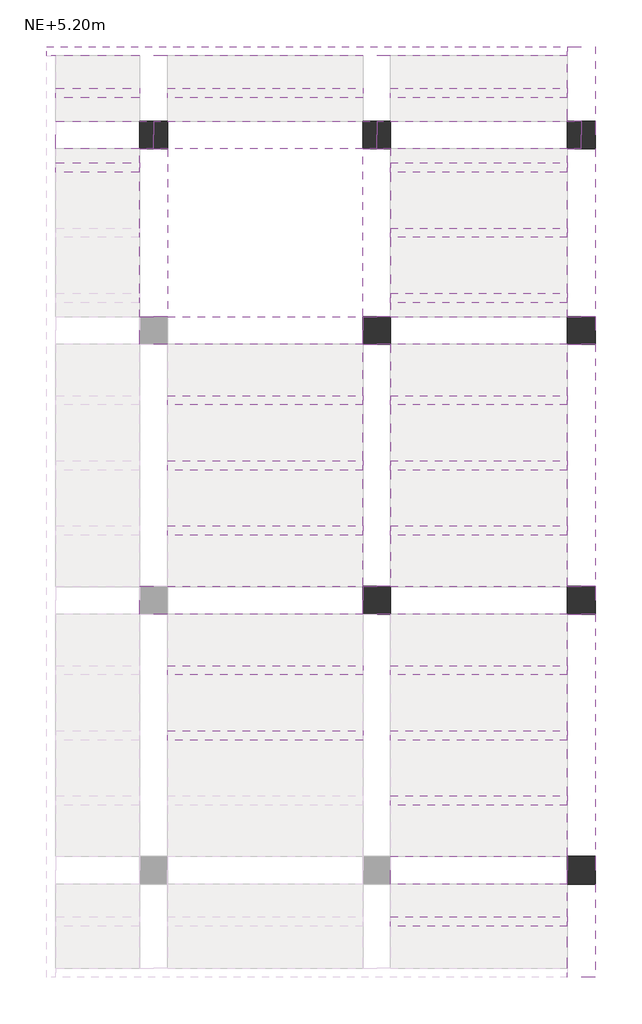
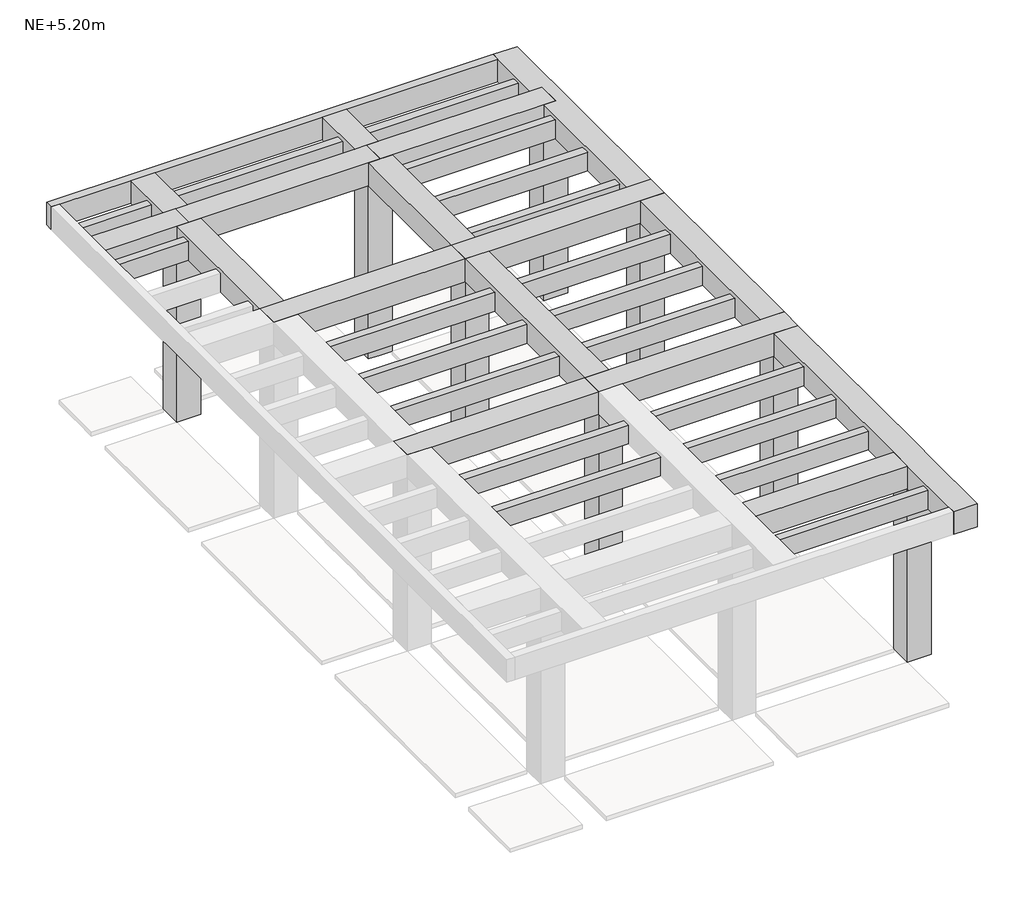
# One storey, part 2 of 2: 34 beams, 8 columns.
"""IFC4 building model written with IfcOpenShell, lengths in millimetres."""

from ifc_helpers import new_model, si_unit, frame, origin, place, context, project, spatial, polyline, outline, extrude, faceted_brep, element, save

model = new_model("IFC4")

# Units and contexts
model_context = context("Model", 3, world=origin())
ifc_project = project(units=[si_unit("LENGTHUNIT", "METRE", prefix="MILLI")], contexts=[model_context])

# Site, building, storey
site = spatial("IfcSite", under=ifc_project)
building = spatial("IfcBuilding", under=site)
storey = spatial("IfcBuildingStorey", under=building, Name="NE+5.20m", Elevation=5200.0)

# Beams
placement = place(None, origin())
element("IfcBeam", 1, ObjectType="Hormigón-Viga rectangular : VA (0.30x0.30m)", at=placement, inside=storey, context=model_context, shape_type="Brep", body=[
    faceted_brep([(1502.3188918, 1062.8132138, 7800.0), (1502.3188918, 762.8132138, 7800.0), (1652.3188918, 762.8132138, 7800.0), (3552.3188918, 762.8132138, 7800.0), (3702.3188918, 762.8132138, 7800.0), (3702.3188918, 1062.8132138, 7800.0), (3552.3188918, 1062.8132138, 7800.0), (1652.3188918, 1062.8132138, 7800.0), (3702.3188918, 1062.8132138, 7500.0), (3552.3188918, 1062.8132138, 7500.0), (1652.3188918, 1062.8132138, 7500.0), (1502.3188918, 1062.8132138, 7500.0), (3702.3188918, 762.8132138, 7500.0), (3552.3188918, 762.8132138, 7500.0), (1652.3188918, 762.8132138, 7500.0), (1502.3188918, 762.8132138, 7500.0)], [[[0, 1, 2, 3, 4, 5, 6, 7]], [[8, 9, 10, 11, 0, 7, 6, 5]], [[11, 10, 9, 8, 12, 13, 14, 15]], [[15, 14, 13, 12, 4, 3, 2, 1]], [[1, 0, 11, 15]], [[4, 12, 8, 5]]]),
])
element("IfcBeam", 2, ObjectType="Hormigón-Viga rectangular : VA (0.30x0.30m)", at=placement, inside=storey, context=model_context, shape_type="Brep", body=[
    faceted_brep([(-897.6811082, 762.8132138, 7800.0), (-747.6811082, 762.8132138, 7800.0), (1352.3188918, 762.8132138, 7800.0), (1502.3188918, 762.8132138, 7800.0), (1502.3188918, 1062.8132138, 7800.0), (1352.3188918, 1062.8132138, 7800.0), (-747.6811082, 1062.8132138, 7800.0), (-897.6811082, 1062.8132138, 7800.0), (1502.3188918, 1062.8132138, 7500.0), (1352.3188918, 1062.8132138, 7500.0), (-747.6811082, 1062.8132138, 7500.0), (-897.6811082, 1062.8132138, 7500.0), (1502.3188918, 762.8132138, 7500.0), (1352.3188918, 762.8132138, 7500.0), (-747.6811082, 762.8132138, 7500.0), (-897.6811082, 762.8132138, 7500.0)], [[[0, 1, 2, 3, 4, 5, 6, 7]], [[8, 9, 10, 11, 7, 6, 5, 4]], [[11, 10, 9, 8, 12, 13, 14, 15]], [[3, 2, 1, 0, 15, 14, 13, 12]], [[0, 7, 11, 15]], [[3, 12, 8, 4]]]),
])
element("IfcBeam", 3, ObjectType="Hormigón-Viga rectangular : VA (0.30x0.30m)", at=placement, inside=storey, context=model_context, shape_type="Brep", body=[
    faceted_brep([(-897.6811082, 762.8132138, 7800.0), (-897.6811082, 1062.8132138, 7800.0), (-1047.6811082, 1062.8132138, 7800.0), (-1947.6811082, 1062.8132138, 7800.0), (-1947.6811082, 762.8132138, 7800.0), (-1047.6811082, 762.8132138, 7800.0), (-897.6811082, 1062.8132138, 7500.0), (-1047.6811082, 1062.8132138, 7500.0), (-1947.6811082, 1062.8132138, 7500.0), (-1947.6811082, 1062.8132138, 7750.0), (-897.6811082, 762.8132138, 7500.0), (-1047.6811082, 762.8132138, 7500.0), (-1947.6811082, 762.8132138, 7500.0), (-1947.6811082, 762.8132138, 7750.0)], [[[0, 1, 2, 3, 4, 5]], [[1, 6, 7, 8, 9, 3, 2]], [[6, 10, 11, 12, 8, 7]], [[10, 0, 5, 4, 13, 12, 11]], [[0, 10, 6, 1]], [[4, 3, 9, 8, 12, 13]]]),
])
element("IfcBeam", 4, ObjectType="Hormigón-Viga rectangular : VA (0.30x0.30m)", at=placement, inside=storey, context=model_context, shape_type="Brep", body=[
    faceted_brep([(3852.3188918, -1337.1867862, 7800.0), (3852.3188918, -1037.1867862, 7800.0), (3552.3188918, -1037.1867862, 7800.0), (1652.3188918, -1037.1867862, 7800.0), (1352.3188918, -1037.1867862, 7800.0), (1352.3188918, -1337.1867862, 7800.0), (1652.3188918, -1337.1867862, 7800.0), (3552.3188918, -1337.1867862, 7800.0), (3852.3188918, -1037.1867862, 7500.0), (3552.3188918, -1037.1867862, 7500.0), (1652.3188918, -1037.1867862, 7500.0), (1352.3188918, -1037.1867862, 7500.0), (3852.3188918, -1337.1867862, 7500.0), (3552.3188918, -1337.1867862, 7500.0), (1652.3188918, -1337.1867862, 7500.0), (1352.3188918, -1337.1867862, 7500.0), (1352.3188918, -1337.1867862, 7750.0)], [[[0, 1, 2, 3, 4, 5, 6, 7]], [[1, 8, 9, 10, 11, 4, 3, 2]], [[8, 12, 13, 14, 15, 11, 10, 9]], [[12, 0, 7, 6, 5, 16, 15, 14, 13]], [[1, 0, 12, 8]], [[5, 4, 11, 15, 16]]]),
])
element("IfcBeam", 5, ObjectType="Hormigón-Viga rectangular : VA (0.30x0.30m)", at=placement, inside=storey, context=model_context, shape_type="Brep", body=[
    faceted_brep([(1352.3188918, -1337.1867862, 7800.0), (1352.3188918, -1037.1867862, 7800.0), (-747.6811082, -1037.1867862, 7800.0), (-1047.6811082, -1037.1867862, 7800.0), (-1047.6811082, -1337.1867862, 7800.0), (-747.6811082, -1337.1867862, 7800.0), (1352.3188918, -1037.1867862, 7500.0), (-747.6811082, -1037.1867862, 7500.0), (-1047.6811082, -1037.1867862, 7500.0), (-1047.6811082, -1037.1867862, 7750.0), (1352.3188918, -1337.1867862, 7500.0), (-747.6811082, -1337.1867862, 7500.0), (-1047.6811082, -1337.1867862, 7500.0), (1352.3188918, -1337.1867862, 7750.0), (-1047.6811082, -1337.1867862, 7750.0)], [[[0, 1, 2, 3, 4, 5]], [[1, 6, 7, 8, 9, 3, 2]], [[6, 10, 11, 12, 8, 7]], [[12, 11, 10, 13, 0, 5, 4, 14]], [[1, 0, 13, 10, 6]], [[4, 3, 9, 8, 12, 14]]]),
])
element("IfcBeam", 6, ObjectType="Hormigón-Viga rectangular : VA (0.30x0.30m)", at=placement, inside=storey, context=model_context, shape_type="Brep", body=[
    faceted_brep([(3852.3188918, -4237.1867862, 7800.0), (3852.3188918, -3937.1867862, 7800.0), (3552.3188918, -3937.1867862, 7800.0), (1652.3188918, -3937.1867862, 7800.0), (1352.3188918, -3937.1867862, 7800.0), (1352.3188918, -4237.1867862, 7800.0), (1652.3188918, -4237.1867862, 7800.0), (3552.3188918, -4237.1867862, 7800.0), (3852.3188918, -3937.1867862, 7500.0), (3552.3188918, -3937.1867862, 7500.0), (1652.3188918, -3937.1867862, 7500.0), (1352.3188918, -3937.1867862, 7500.0), (1352.3188918, -3937.1867862, 7750.0), (3852.3188918, -4237.1867862, 7500.0), (3552.3188918, -4237.1867862, 7500.0), (1652.3188918, -4237.1867862, 7500.0), (1352.3188918, -4237.1867862, 7500.0), (1352.3188918, -4237.1867862, 7750.0)], [[[0, 1, 2, 3, 4, 5, 6, 7]], [[1, 8, 9, 10, 11, 12, 4, 3, 2]], [[8, 13, 14, 15, 16, 11, 10, 9]], [[13, 0, 7, 6, 5, 17, 16, 15, 14]], [[1, 0, 13, 8]], [[5, 4, 12, 11, 16, 17]]]),
])
element("IfcBeam", 7, ObjectType="Hormigón-Viga rectangular : VA (0.30x0.30m)", at=placement, inside=storey, context=model_context, shape_type="Brep", body=[
    faceted_brep([(1352.3188918, -4237.1867862, 7800.0), (1352.3188918, -3937.1867862, 7800.0), (-747.6811082, -3937.1867862, 7800.0), (-1047.6811082, -3937.1867862, 7800.0), (-1047.6811082, -4237.1867862, 7800.0), (-747.6811082, -4237.1867862, 7800.0), (1352.3188918, -3937.1867862, 7500.0), (-747.6811082, -3937.1867862, 7500.0), (-1047.6811082, -3937.1867862, 7500.0), (-1047.6811082, -3937.1867862, 7750.0), (1352.3188918, -3937.1867862, 7750.0), (1352.3188918, -4237.1867862, 7500.0), (-747.6811082, -4237.1867862, 7500.0), (-1047.6811082, -4237.1867862, 7500.0), (1352.3188918, -4237.1867862, 7750.0), (-1047.6811082, -4237.1867862, 7750.0)], [[[0, 1, 2, 3, 4, 5]], [[6, 7, 8, 9, 3, 2, 1, 10]], [[6, 11, 12, 13, 8, 7]], [[13, 12, 11, 14, 0, 5, 4, 15]], [[1, 0, 14, 11, 6, 10]], [[4, 3, 9, 8, 13, 15]]]),
])
element("IfcBeam", 8, ObjectType="Hormigón-Viga rectangular : VA (0.30x0.30m)", at=placement, inside=storey, context=model_context, shape_type="Brep", body=[
    faceted_brep([(3552.3188918, -7137.1867862, 7800.0), (3552.3188918, -6837.1867862, 7800.0), (1652.3188918, -6837.1867862, 7800.0), (1652.3188918, -7137.1867862, 7800.0), (3552.3188918, -6837.1867862, 7750.0), (3552.3188918, -6837.1867862, 7500.0), (1652.3188918, -6837.1867862, 7500.0), (1652.3188918, -6837.1867862, 7750.0), (3552.3188918, -7137.1867862, 7500.0), (1652.3188918, -7137.1867862, 7500.0), (1652.3188918, -7137.1867862, 7750.0), (3552.3188918, -7137.1867862, 7750.0)], [[[0, 1, 2, 3]], [[2, 1, 4, 5, 6, 7]], [[5, 8, 9, 6]], [[0, 3, 10, 9, 8, 11]], [[1, 0, 11, 8, 5, 4]], [[3, 2, 7, 6, 9, 10]]]),
])
element("IfcBeam", 9, ObjectType="Hormigón-Viga rectangular : VA (0.30x0.30m)", at=placement, inside=storey, context=model_context, shape_type="Brep", body=[
    faceted_brep([(3552.3188918, -1037.1867862, 7800.0), (3852.3188918, -1037.1867862, 7800.0), (3852.3188918, 1862.8132138, 7800.0), (3552.3188918, 1862.8132138, 7800.0), (3552.3188918, 1762.8132138, 7800.0), (3552.3188918, 1062.8132138, 7800.0), (3702.3188918, 1062.8132138, 7800.0), (3702.3188918, 762.8132138, 7800.0), (3552.3188918, 762.8132138, 7800.0), (3552.3188918, 1862.8132138, 7500.0), (3552.3188918, 1762.8132138, 7500.0), (3552.3188918, 1412.8132138, 7500.0), (3552.3188918, 1312.8132138, 7500.0), (3552.3188918, 1062.8132138, 7500.0), (3552.3188918, 1062.8132138, 7750.0), (3852.3188918, -1037.1867862, 7500.0), (3552.3188918, -1037.1867862, 7500.0), (3552.3188918, -887.1867862, 7500.0), (3552.3188918, -787.1867862, 7500.0), (3552.3188918, -187.1867862, 7500.0), (3552.3188918, -87.1867862, 7500.0), (3552.3188918, 512.8132138, 7500.0), (3552.3188918, 612.8132138, 7500.0), (3552.3188918, 762.8132138, 7500.0), (3702.3188918, 762.8132138, 7500.0), (3702.3188918, 1062.8132138, 7500.0), (3852.3188918, 1862.8132138, 7500.0), (3852.3188918, 1062.8132138, 7500.0), (3852.3188918, 762.8132138, 7500.0), (3552.3188918, -1037.1867862, 7750.0), (3552.3188918, 762.8132138, 7750.0)], [[[0, 1, 2, 3, 4, 5, 6, 7, 8]], [[3, 9, 10, 11, 12, 13, 14, 5, 4]], [[15, 16, 17, 18, 19, 20, 21, 22, 23, 24, 25, 13, 12, 11, 10, 9, 26, 27, 28]], [[1, 15, 28, 27, 26, 2]], [[1, 0, 29, 16, 15]], [[7, 24, 23, 30, 8]], [[6, 25, 24, 7]], [[25, 6, 5, 14, 13]], [[16, 29, 0, 8, 30, 23, 22, 21, 20, 19, 18, 17]], [[3, 2, 26, 9]]]),
])
element("IfcBeam", 10, ObjectType="Hormigón-Viga rectangular : VA (0.30x0.30m)", at=placement, inside=storey, context=model_context, shape_type="Brep", body=[
    faceted_brep([(3852.3188918, -1337.1867862, 7800.0), (3552.3188918, -1337.1867862, 7800.0), (3552.3188918, -3937.1867862, 7800.0), (3852.3188918, -3937.1867862, 7800.0), (3552.3188918, -1337.1867862, 7750.0), (3552.3188918, -1337.1867862, 7500.0), (3552.3188918, -1887.1867862, 7500.0), (3552.3188918, -1987.1867862, 7500.0), (3552.3188918, -2587.1867862, 7500.0), (3552.3188918, -2687.1867862, 7500.0), (3552.3188918, -3287.1867862, 7500.0), (3552.3188918, -3387.1867862, 7500.0), (3552.3188918, -3937.1867862, 7500.0), (3552.3188918, -3937.1867862, 7750.0), (3852.3188918, -1337.1867862, 7500.0), (3852.3188918, -3937.1867862, 7500.0)], [[[0, 1, 2, 3]], [[1, 4, 5, 6, 7, 8, 9, 10, 11, 12, 13, 2]], [[5, 14, 15, 12, 11, 10, 9, 8, 7, 6]], [[14, 0, 3, 15]], [[1, 0, 14, 5, 4]], [[3, 2, 13, 12, 15]]]),
])
element("IfcBeam", 11, ObjectType="Hormigón-Viga rectangular : VA (0.30x0.30m)", at=placement, inside=storey, context=model_context, shape_type="Brep", body=[
    faceted_brep([(3552.3188918, -8137.1867862, 7800.0), (3852.3188918, -8137.1867862, 7800.0), (3852.3188918, -7137.1867862, 7800.0), (3852.3188918, -6837.1867862, 7800.0), (3852.3188918, -4237.1867862, 7800.0), (3552.3188918, -4237.1867862, 7800.0), (3552.3188918, -6837.1867862, 7800.0), (3552.3188918, -7137.1867862, 7800.0), (3552.3188918, -8037.1867862, 7800.0), (3552.3188918, -8137.1867862, 7500.0), (3552.3188918, -4237.1867862, 7750.0), (3552.3188918, -4237.1867862, 7500.0), (3552.3188918, -4787.1867862, 7500.0), (3552.3188918, -4887.1867862, 7500.0), (3552.3188918, -5487.1867862, 7500.0), (3552.3188918, -5587.1867862, 7500.0), (3552.3188918, -6187.1867862, 7500.0), (3552.3188918, -6287.1867862, 7500.0), (3552.3188918, -6837.1867862, 7500.0), (3552.3188918, -7137.1867862, 7500.0), (3552.3188918, -7487.1867862, 7500.0), (3552.3188918, -7587.1867862, 7500.0), (3552.3188918, -8037.1867862, 7500.0), (3852.3188918, -8137.1867862, 7500.0), (3852.3188918, -4237.1867862, 7500.0), (3852.3188918, -6837.1867862, 7500.0), (3852.3188918, -7137.1867862, 7500.0)], [[[0, 1, 2, 3, 4, 5, 6, 7, 8]], [[9, 0, 8, 7, 6, 5, 10, 11, 12, 13, 14, 15, 16, 17, 18, 19, 20, 21, 22]], [[23, 9, 22, 21, 20, 19, 18, 17, 16, 15, 14, 13, 12, 11, 24, 25, 26]], [[1, 23, 26, 25, 24, 4, 3, 2]], [[5, 4, 24, 11, 10]], [[1, 0, 9, 23]]]),
])
element("IfcBeam", 12, ObjectType="Hormigón-Viga rectangular : VA (0.30x0.30m)", at=placement, inside=storey, context=model_context, shape_type="Brep", body=[
    faceted_brep([(1352.3188918, 1062.8132138, 7800.0), (1502.3188918, 1062.8132138, 7800.0), (1652.3188918, 1062.8132138, 7800.0), (1652.3188918, 1762.8132138, 7800.0), (1352.3188918, 1762.8132138, 7800.0), (1352.3188918, 1762.8132138, 7750.0), (1352.3188918, 1762.8132138, 7500.0), (1352.3188918, 1412.8132138, 7500.0), (1352.3188918, 1312.8132138, 7500.0), (1352.3188918, 1062.8132138, 7500.0), (1352.3188918, 1062.8132138, 7750.0), (1652.3188918, 1062.8132138, 7500.0), (1502.3188918, 1062.8132138, 7500.0), (1652.3188918, 1762.8132138, 7500.0), (1652.3188918, 1412.8132138, 7500.0), (1652.3188918, 1312.8132138, 7500.0), (1652.3188918, 1062.8132138, 7750.0), (1652.3188918, 1762.8132138, 7750.0)], [[[0, 1, 2, 3, 4]], [[0, 4, 5, 6, 7, 8, 9, 10]], [[11, 12, 9, 8, 7, 6, 13, 14, 15]], [[3, 2, 16, 11, 15, 14, 13, 17]], [[2, 1, 0, 10, 9, 12, 11, 16]], [[4, 3, 17, 13, 6, 5]]]),
    faceted_brep([(1652.3188918, -1037.1867862, 7800.0), (1352.3188918, -1037.1867862, 7800.0), (1352.3188918, -1037.1867862, 7500.0), (1652.3188918, -1037.1867862, 7500.0), (1652.3188918, -1037.1867862, 7750.0), (1352.3188918, 762.8132138, 7500.0), (1352.3188918, 762.8132138, 7800.0), (1502.3188918, 762.8132138, 7800.0), (1652.3188918, 762.8132138, 7800.0), (1652.3188918, 762.8132138, 7750.0), (1652.3188918, 762.8132138, 7500.0), (1502.3188918, 762.8132138, 7500.0), (1652.3188918, -887.1867862, 7500.0), (1652.3188918, -787.1867862, 7500.0), (1652.3188918, -187.1867862, 7500.0), (1652.3188918, -87.1867862, 7500.0), (1652.3188918, 512.8132138, 7500.0), (1652.3188918, 612.8132138, 7500.0)], [[[0, 1, 2, 3, 4]], [[5, 6, 7, 8, 9, 10, 11]], [[8, 0, 4, 3, 12, 13, 14, 15, 16, 17, 10, 9]], [[1, 0, 8, 7, 6]], [[2, 1, 6, 5]], [[3, 2, 5, 11, 10, 17, 16, 15, 14, 13, 12]]]),
])
element("IfcBeam", 13, ObjectType="Hormigón-Viga rectangular : VA (0.30x0.30m)", at=placement, inside=storey, context=model_context, shape_type="Brep", body=[
    faceted_brep([(1652.3188918, -1337.1867862, 7800.0), (1352.3188918, -1337.1867862, 7800.0), (1352.3188918, -3937.1867862, 7800.0), (1652.3188918, -3937.1867862, 7800.0), (1352.3188918, -1337.1867862, 7750.0), (1352.3188918, -1337.1867862, 7500.0), (1352.3188918, -1887.1867862, 7500.0), (1352.3188918, -1987.1867862, 7500.0), (1352.3188918, -2587.1867862, 7500.0), (1352.3188918, -2687.1867862, 7500.0), (1352.3188918, -3287.1867862, 7500.0), (1352.3188918, -3387.1867862, 7500.0), (1352.3188918, -3937.1867862, 7500.0), (1352.3188918, -3937.1867862, 7750.0), (1652.3188918, -1337.1867862, 7500.0), (1652.3188918, -1887.1867862, 7500.0), (1652.3188918, -1987.1867862, 7500.0), (1652.3188918, -2587.1867862, 7500.0), (1652.3188918, -2687.1867862, 7500.0), (1652.3188918, -3287.1867862, 7500.0), (1652.3188918, -3387.1867862, 7500.0), (1652.3188918, -3937.1867862, 7500.0), (1652.3188918, -3937.1867862, 7750.0), (1652.3188918, -1337.1867862, 7750.0)], [[[0, 1, 2, 3]], [[2, 1, 4, 5, 6, 7, 8, 9, 10, 11, 12, 13]], [[5, 14, 15, 16, 17, 18, 19, 20, 21, 12, 11, 10, 9, 8, 7, 6]], [[0, 3, 22, 21, 20, 19, 18, 17, 16, 15, 14, 23]], [[1, 0, 23, 14, 5, 4]], [[3, 2, 13, 12, 21, 22]]]),
])
element("IfcBeam", 14, ObjectType="Hormigón-Viga rectangular : VA (0.30x0.30m)", at=placement, inside=storey, context=model_context, shape_type="Brep", body=[
    faceted_brep([(-1047.6811082, 1062.8132138, 7800.0), (-897.6811082, 1062.8132138, 7800.0), (-747.6811082, 1062.8132138, 7800.0), (-747.6811082, 1762.8132138, 7800.0), (-1047.6811082, 1762.8132138, 7800.0), (-1047.6811082, 1762.8132138, 7750.0), (-1047.6811082, 1762.8132138, 7500.0), (-1047.6811082, 1412.8132138, 7500.0), (-1047.6811082, 1312.8132138, 7500.0), (-1047.6811082, 1062.8132138, 7500.0), (-1047.6811082, 1062.8132138, 7750.0), (-747.6811082, 1062.8132138, 7500.0), (-897.6811082, 1062.8132138, 7500.0), (-747.6811082, 1762.8132138, 7500.0), (-747.6811082, 1412.8132138, 7500.0), (-747.6811082, 1312.8132138, 7500.0), (-747.6811082, 1062.8132138, 7750.0), (-747.6811082, 1762.8132138, 7750.0)], [[[0, 1, 2, 3, 4]], [[0, 4, 5, 6, 7, 8, 9, 10]], [[11, 12, 9, 8, 7, 6, 13, 14, 15]], [[3, 2, 16, 11, 15, 14, 13, 17]], [[2, 1, 0, 10, 9, 12, 11, 16]], [[4, 3, 17, 13, 6, 5]]]),
    faceted_brep([(-747.6811082, -1037.1867862, 7800.0), (-1047.6811082, -1037.1867862, 7800.0), (-1047.6811082, -1037.1867862, 7750.0), (-1047.6811082, -1037.1867862, 7500.0), (-747.6811082, -1037.1867862, 7500.0), (-747.6811082, 762.8132138, 7800.0), (-747.6811082, 762.8132138, 7500.0), (-897.6811082, 762.8132138, 7500.0), (-1047.6811082, 762.8132138, 7500.0), (-1047.6811082, 762.8132138, 7750.0), (-1047.6811082, 762.8132138, 7800.0), (-897.6811082, 762.8132138, 7800.0), (-1047.6811082, 612.8132138, 7500.0), (-1047.6811082, 512.8132138, 7500.0), (-1047.6811082, -87.1867862, 7500.0), (-1047.6811082, -187.1867862, 7500.0), (-1047.6811082, -787.1867862, 7500.0), (-1047.6811082, -887.1867862, 7500.0)], [[[0, 1, 2, 3, 4]], [[5, 6, 7, 8, 9, 10, 11]], [[0, 4, 6, 5]], [[1, 0, 5, 11, 10]], [[1, 10, 9, 8, 12, 13, 14, 15, 16, 17, 3, 2]], [[4, 3, 17, 16, 15, 14, 13, 12, 8, 7, 6]]]),
])
element("IfcBeam", 15, ObjectType="Hormigón-Viga rectangular : VB (0.10x0.30m)", at=placement, inside=storey, context=model_context, shape_type="Brep", body=[
    faceted_brep([(-2047.6811082, 1862.8132138, 7800.0), (-2047.6811082, 1762.8132138, 7800.0), (-1947.6811082, 1762.8132138, 7800.0), (-1047.6811082, 1762.8132138, 7800.0), (-747.6811082, 1762.8132138, 7800.0), (1352.3188918, 1762.8132138, 7800.0), (1652.3188918, 1762.8132138, 7800.0), (3552.3188918, 1762.8132138, 7800.0), (3552.3188918, 1862.8132138, 7800.0), (-2047.6811082, 1862.8132138, 7500.0), (3552.3188918, 1862.8132138, 7500.0), (-2047.6811082, 1762.8132138, 7500.0), (3552.3188918, 1762.8132138, 7500.0), (1652.3188918, 1762.8132138, 7500.0), (1352.3188918, 1762.8132138, 7500.0), (-747.6811082, 1762.8132138, 7500.0), (-1047.6811082, 1762.8132138, 7500.0), (-1947.6811082, 1762.8132138, 7500.0), (3552.3188918, 1762.8132138, 7750.0)], [[[0, 1, 2, 3, 4, 5, 6, 7, 8]], [[9, 0, 8, 10]], [[11, 9, 10, 12, 13, 14, 15, 16, 17]], [[1, 11, 17, 16, 15, 14, 13, 12, 18, 7, 6, 5, 4, 3, 2]], [[1, 0, 9, 11]], [[8, 7, 18, 12, 10]]]),
])
element("IfcBeam", 16, ObjectType="Hormigón-Viga rectangular : VT (0.10x0.30m)", at=placement, inside=storey, context=model_context, shape_type="SweptSolid", body=[
    extrude(outline(polyline([(3552.3188918, -7487.1867862), (3552.3188918, -7587.1867862), (1652.3188918, -7587.1867862), (1652.3188918, -7487.1867862), (3552.3188918, -7487.1867862)])), frame((0.0, 0.0, 7500.0), z_axis=(0.0, 0.0, 1.0), x_axis=(1.0, 0.0, 0.0)), (0.0, 0.0, 1.0), 250.0),
])
element("IfcBeam", 17, ObjectType="Hormigón-Viga rectangular : VT (0.10x0.30m)", at=placement, inside=storey, context=model_context, shape_type="SweptSolid", body=[
    extrude(outline(polyline([(3552.3188918, -6187.1867862), (3552.3188918, -6287.1867862), (1652.3188918, -6287.1867862), (1652.3188918, -6187.1867862), (3552.3188918, -6187.1867862)])), frame((0.0, 0.0, 7500.0), z_axis=(0.0, 0.0, 1.0), x_axis=(1.0, 0.0, 0.0)), (0.0, 0.0, 1.0), 250.0),
])
element("IfcBeam", 18, ObjectType="Hormigón-Viga rectangular : VT (0.10x0.30m)", at=placement, inside=storey, context=model_context, shape_type="SweptSolid", body=[
    extrude(outline(polyline([(3552.3188918, -5487.1867862), (3552.3188918, -5587.1867862), (1652.3188918, -5587.1867862), (1652.3188918, -5487.1867862), (3552.3188918, -5487.1867862)])), frame((0.0, 0.0, 7500.0), z_axis=(0.0, 0.0, 1.0), x_axis=(1.0, 0.0, 0.0)), (0.0, 0.0, 1.0), 250.0),
])
element("IfcBeam", 19, ObjectType="Hormigón-Viga rectangular : VT (0.10x0.30m)", at=placement, inside=storey, context=model_context, shape_type="SweptSolid", body=[
    extrude(outline(polyline([(3552.3188918, -4787.1867862), (3552.3188918, -4887.1867862), (1652.3188918, -4887.1867862), (1652.3188918, -4787.1867862), (3552.3188918, -4787.1867862)])), frame((0.0, 0.0, 7500.0), z_axis=(0.0, 0.0, 1.0), x_axis=(1.0, 0.0, 0.0)), (0.0, 0.0, 1.0), 250.0),
])
element("IfcBeam", 20, ObjectType="Hormigón-Viga rectangular : VT (0.10x0.30m)", at=placement, inside=storey, context=model_context, shape_type="SweptSolid", body=[
    extrude(outline(polyline([(1352.3188918, -5487.1867862), (1352.3188918, -5587.1867862), (-747.6811082, -5587.1867862), (-747.6811082, -5487.1867862), (1352.3188918, -5487.1867862)])), frame((0.0, 0.0, 7500.0), z_axis=(0.0, 0.0, 1.0), x_axis=(1.0, 0.0, 0.0)), (0.0, 0.0, 1.0), 250.0),
])
element("IfcBeam", 21, ObjectType="Hormigón-Viga rectangular : VT (0.10x0.30m)", at=placement, inside=storey, context=model_context, shape_type="SweptSolid", body=[
    extrude(outline(polyline([(1352.3188918, -4787.1867862), (1352.3188918, -4887.1867862), (-747.6811082, -4887.1867862), (-747.6811082, -4787.1867862), (1352.3188918, -4787.1867862)])), frame((0.0, 0.0, 7500.0), z_axis=(0.0, 0.0, 1.0), x_axis=(1.0, 0.0, 0.0)), (0.0, 0.0, 1.0), 250.0),
])
element("IfcBeam", 22, ObjectType="Hormigón-Viga rectangular : VT (0.10x0.30m)", at=placement, inside=storey, context=model_context, shape_type="SweptSolid", body=[
    extrude(outline(polyline([(1352.3188918, -3287.1867862), (1352.3188918, -3387.1867862), (-747.6811082, -3387.1867862), (-747.6811082, -3287.1867862), (1352.3188918, -3287.1867862)])), frame((0.0, 0.0, 7500.0), z_axis=(0.0, 0.0, 1.0), x_axis=(1.0, 0.0, 0.0)), (0.0, 0.0, 1.0), 250.0),
])
element("IfcBeam", 23, ObjectType="Hormigón-Viga rectangular : VT (0.10x0.30m)", at=placement, inside=storey, context=model_context, shape_type="SweptSolid", body=[
    extrude(outline(polyline([(1352.3188918, -2587.1867862), (1352.3188918, -2687.1867862), (-747.6811082, -2687.1867862), (-747.6811082, -2587.1867862), (1352.3188918, -2587.1867862)])), frame((0.0, 0.0, 7500.0), z_axis=(0.0, 0.0, 1.0), x_axis=(1.0, 0.0, 0.0)), (0.0, 0.0, 1.0), 250.0),
])
element("IfcBeam", 24, ObjectType="Hormigón-Viga rectangular : VT (0.10x0.30m)", at=placement, inside=storey, context=model_context, shape_type="SweptSolid", body=[
    extrude(outline(polyline([(1352.3188918, -1887.1867862), (1352.3188918, -1987.1867862), (-747.6811082, -1987.1867862), (-747.6811082, -1887.1867862), (1352.3188918, -1887.1867862)])), frame((0.0, 0.0, 7500.0), z_axis=(0.0, 0.0, 1.0), x_axis=(1.0, 0.0, 0.0)), (0.0, 0.0, 1.0), 250.0),
])
element("IfcBeam", 25, ObjectType="Hormigón-Viga rectangular : VT (0.10x0.30m)", at=placement, inside=storey, context=model_context, shape_type="SweptSolid", body=[
    extrude(outline(polyline([(3552.3188918, -3287.1867862), (3552.3188918, -3387.1867862), (1652.3188918, -3387.1867862), (1652.3188918, -3287.1867862), (3552.3188918, -3287.1867862)])), frame((0.0, 0.0, 7500.0), z_axis=(0.0, 0.0, 1.0), x_axis=(1.0, 0.0, 0.0)), (0.0, 0.0, 1.0), 250.0),
])
element("IfcBeam", 26, ObjectType="Hormigón-Viga rectangular : VT (0.10x0.30m)", at=placement, inside=storey, context=model_context, shape_type="SweptSolid", body=[
    extrude(outline(polyline([(3552.3188918, -2587.1867862), (3552.3188918, -2687.1867862), (1652.3188918, -2687.1867862), (1652.3188918, -2587.1867862), (3552.3188918, -2587.1867862)])), frame((0.0, 0.0, 7500.0), z_axis=(0.0, 0.0, 1.0), x_axis=(1.0, 0.0, 0.0)), (0.0, 0.0, 1.0), 250.0),
])
element("IfcBeam", 27, ObjectType="Hormigón-Viga rectangular : VT (0.10x0.30m)", at=placement, inside=storey, context=model_context, shape_type="SweptSolid", body=[
    extrude(outline(polyline([(3552.3188918, -1887.1867862), (3552.3188918, -1987.1867862), (1652.3188918, -1987.1867862), (1652.3188918, -1887.1867862), (3552.3188918, -1887.1867862)])), frame((0.0, 0.0, 7500.0), z_axis=(0.0, 0.0, 1.0), x_axis=(1.0, 0.0, 0.0)), (0.0, 0.0, 1.0), 250.0),
])
element("IfcBeam", 28, ObjectType="Hormigón-Viga rectangular : VT (0.10x0.30m)", at=placement, inside=storey, context=model_context, shape_type="SweptSolid", body=[
    extrude(outline(polyline([(3552.3188918, -787.1867862), (3552.3188918, -887.1867862), (1652.3188918, -887.1867862), (1652.3188918, -787.1867862), (3552.3188918, -787.1867862)])), frame((0.0, 0.0, 7500.0), z_axis=(0.0, 0.0, 1.0), x_axis=(1.0, 0.0, 0.0)), (0.0, 0.0, 1.0), 250.0),
])
element("IfcBeam", 29, ObjectType="Hormigón-Viga rectangular : VT (0.10x0.30m)", at=placement, inside=storey, context=model_context, shape_type="SweptSolid", body=[
    extrude(outline(polyline([(3552.3188918, -87.1867862), (3552.3188918, -187.1867862), (1652.3188918, -187.1867862), (1652.3188918, -87.1867862), (3552.3188918, -87.1867862)])), frame((0.0, 0.0, 7500.0), z_axis=(0.0, 0.0, 1.0), x_axis=(1.0, 0.0, 0.0)), (0.0, 0.0, 1.0), 250.0),
])
element("IfcBeam", 30, ObjectType="Hormigón-Viga rectangular : VT (0.10x0.30m)", at=placement, inside=storey, context=model_context, shape_type="SweptSolid", body=[
    extrude(outline(polyline([(3552.3188918, 612.8132138), (3552.3188918, 512.8132138), (1652.3188918, 512.8132138), (1652.3188918, 612.8132138), (3552.3188918, 612.8132138)])), frame((0.0, 0.0, 7500.0), z_axis=(0.0, 0.0, 1.0), x_axis=(1.0, 0.0, 0.0)), (0.0, 0.0, 1.0), 250.0),
])
element("IfcBeam", 31, ObjectType="Hormigón-Viga rectangular : VT (0.10x0.30m)", at=placement, inside=storey, context=model_context, shape_type="SweptSolid", body=[
    extrude(outline(polyline([(-1047.6811082, 612.8132138), (-1047.6811082, 512.8132138), (-1947.6811082, 512.8132138), (-1947.6811082, 612.8132138), (-1047.6811082, 612.8132138)])), frame((0.0, 0.0, 7500.0), z_axis=(0.0, 0.0, 1.0), x_axis=(1.0, 0.0, 0.0)), (0.0, 0.0, 1.0), 250.0),
])
element("IfcBeam", 32, ObjectType="Hormigón-Viga rectangular : VT (0.10x0.30m)", at=placement, inside=storey, context=model_context, shape_type="SweptSolid", body=[
    extrude(outline(polyline([(-1047.6811082, 1412.8132138), (-1047.6811082, 1312.8132138), (-1947.6811082, 1312.8132138), (-1947.6811082, 1412.8132138), (-1047.6811082, 1412.8132138)])), frame((0.0, 0.0, 7500.0), z_axis=(0.0, 0.0, 1.0), x_axis=(1.0, 0.0, 0.0)), (0.0, 0.0, 1.0), 250.0),
])
element("IfcBeam", 33, ObjectType="Hormigón-Viga rectangular : VT (0.10x0.30m)", at=placement, inside=storey, context=model_context, shape_type="SweptSolid", body=[
    extrude(outline(polyline([(1352.3188918, 1412.8132138), (1352.3188918, 1312.8132138), (-747.6811082, 1312.8132138), (-747.6811082, 1412.8132138), (1352.3188918, 1412.8132138)])), frame((0.0, 0.0, 7500.0), z_axis=(0.0, 0.0, 1.0), x_axis=(1.0, 0.0, 0.0)), (0.0, 0.0, 1.0), 250.0),
])
element("IfcBeam", 34, ObjectType="Hormigón-Viga rectangular : VT (0.10x0.30m)", at=placement, inside=storey, context=model_context, shape_type="SweptSolid", body=[
    extrude(outline(polyline([(3552.3188918, 1412.8132138), (3552.3188918, 1312.8132138), (1652.3188918, 1312.8132138), (1652.3188918, 1412.8132138), (3552.3188918, 1412.8132138)])), frame((0.0, 0.0, 7500.0), z_axis=(0.0, 0.0, 1.0), x_axis=(1.0, 0.0, 0.0)), (0.0, 0.0, 1.0), 250.0),
])

# Columns
element("IfcColumn", 35, ObjectType="Hormigón-Rectangular-Pilar : C1 (0.30x0.30m)", at=placement, inside=storey, context=model_context, shape_type="Brep", body=[
    faceted_brep([(-747.6811082, 1062.8132138, 5200.0), (-747.6811082, 762.8132138, 5200.0), (-897.6811082, 762.8132138, 5200.0), (-1047.6811082, 762.8132138, 5200.0), (-1047.6811082, 1062.8132138, 5200.0), (-897.6811082, 1062.8132138, 5200.0), (-747.6811082, 1062.8132138, 7500.0), (-747.6811082, 762.8132138, 7500.0), (-1047.6811082, 762.8132138, 7500.0), (-1047.6811082, 1062.8132138, 7500.0)], [[[0, 1, 2, 3, 4, 5]], [[6, 7, 1, 0]], [[7, 8, 3, 2, 1]], [[8, 9, 4, 3]], [[9, 6, 0, 5, 4]], [[6, 9, 8, 7]]]),
])
element("IfcColumn", 36, ObjectType="Hormigón-Rectangular-Pilar : C1 (0.30x0.30m)", at=placement, inside=storey, context=model_context, shape_type="Brep", body=[
    faceted_brep([(1652.3188918, 1062.8132138, 5200.0), (1652.3188918, 762.8132138, 5200.0), (1502.3188918, 762.8132138, 5200.0), (1352.3188918, 762.8132138, 5200.0), (1352.3188918, 1062.8132138, 5200.0), (1502.3188918, 1062.8132138, 5200.0), (1652.3188918, 1062.8132138, 7500.0), (1652.3188918, 762.8132138, 7500.0), (1352.3188918, 762.8132138, 7500.0), (1352.3188918, 1062.8132138, 7500.0)], [[[0, 1, 2, 3, 4, 5]], [[6, 7, 1, 0]], [[7, 8, 3, 2, 1]], [[8, 9, 4, 3]], [[9, 6, 0, 5, 4]], [[6, 9, 8, 7]]]),
])
element("IfcColumn", 37, ObjectType="Hormigón-Rectangular-Pilar : C1 (0.30x0.30m)", at=placement, inside=storey, context=model_context, shape_type="Brep", body=[
    faceted_brep([(3852.3188918, 1062.8132138, 5200.0), (3852.3188918, 762.8132138, 5200.0), (3702.3188918, 762.8132138, 5200.0), (3552.3188918, 762.8132138, 5200.0), (3552.3188918, 1062.8132138, 5200.0), (3702.3188918, 1062.8132138, 5200.0), (3852.3188918, 1062.8132138, 7500.0), (3852.3188918, 762.8132138, 7500.0), (3552.3188918, 762.8132138, 7500.0), (3552.3188918, 1062.8132138, 7500.0)], [[[0, 1, 2, 3, 4, 5]], [[6, 7, 1, 0]], [[7, 8, 3, 2, 1]], [[8, 9, 4, 3]], [[9, 6, 0, 5, 4]], [[6, 9, 8, 7]]]),
])
element("IfcColumn", 38, ObjectType="Hormigón-Rectangular-Pilar : C1 (0.30x0.30m)", at=placement, inside=storey, context=model_context, shape_type="Brep", body=[
    faceted_brep([(1652.3188918, -1037.1867862, 5200.0), (1652.3188918, -1337.1867862, 5200.0), (1502.3188918, -1337.1867862, 5200.0), (1352.3188918, -1337.1867862, 5200.0), (1352.3188918, -1037.1867862, 5200.0), (1502.3188918, -1037.1867862, 5200.0), (1652.3188918, -1037.1867862, 7500.0), (1652.3188918, -1337.1867862, 7500.0), (1352.3188918, -1337.1867862, 7500.0), (1352.3188918, -1037.1867862, 7500.0)], [[[0, 1, 2, 3, 4, 5]], [[6, 7, 1, 0]], [[7, 8, 3, 2, 1]], [[8, 9, 4, 3]], [[9, 6, 0, 5, 4]], [[6, 9, 8, 7]]]),
])
element("IfcColumn", 39, ObjectType="Hormigón-Rectangular-Pilar : C1 (0.30x0.30m)", at=placement, inside=storey, context=model_context, shape_type="Brep", body=[
    faceted_brep([(3852.3188918, -1037.1867862, 5200.0), (3852.3188918, -1337.1867862, 5200.0), (3702.3188918, -1337.1867862, 5200.0), (3552.3188918, -1337.1867862, 5200.0), (3552.3188918, -1037.1867862, 5200.0), (3702.3188918, -1037.1867862, 5200.0), (3852.3188918, -1037.1867862, 7500.0), (3852.3188918, -1337.1867862, 7500.0), (3552.3188918, -1337.1867862, 7500.0), (3552.3188918, -1037.1867862, 7500.0)], [[[0, 1, 2, 3, 4, 5]], [[6, 7, 1, 0]], [[7, 8, 3, 2, 1]], [[8, 9, 4, 3]], [[9, 6, 0, 5, 4]], [[6, 9, 8, 7]]]),
])
element("IfcColumn", 40, ObjectType="Hormigón-Rectangular-Pilar : C1 (0.30x0.30m)", at=placement, inside=storey, context=model_context, shape_type="SweptSolid", body=[
    extrude(outline(polyline([(1652.3188918, -3937.1867862), (1652.3188918, -4237.1867862), (1352.3188918, -4237.1867862), (1352.3188918, -3937.1867862), (1652.3188918, -3937.1867862)])), frame((0.0, 0.0, 5200.0), z_axis=(0.0, 0.0, 1.0), x_axis=(1.0, 0.0, 0.0)), (0.0, 0.0, 1.0), 2300.0),
])
element("IfcColumn", 41, ObjectType="Hormigón-Rectangular-Pilar : C1 (0.30x0.30m)", at=placement, inside=storey, context=model_context, shape_type="SweptSolid", body=[
    extrude(outline(polyline([(3852.3188918, -3937.1867862), (3852.3188918, -4237.1867862), (3552.3188918, -4237.1867862), (3552.3188918, -3937.1867862), (3852.3188918, -3937.1867862)])), frame((0.0, 0.0, 5200.0), z_axis=(0.0, 0.0, 1.0), x_axis=(1.0, 0.0, 0.0)), (0.0, 0.0, 1.0), 2300.0),
])
element("IfcColumn", 42, ObjectType="Hormigón-Rectangular-Pilar : C1 (0.30x0.30m)", at=placement, inside=storey, context=model_context, shape_type="SweptSolid", body=[
    extrude(outline(polyline([(3852.3188918, -6837.1867862), (3852.3188918, -7137.1867862), (3552.3188918, -7137.1867862), (3552.3188918, -6837.1867862), (3852.3188918, -6837.1867862)])), frame((0.0, 0.0, 5200.0), z_axis=(0.0, 0.0, 1.0), x_axis=(1.0, 0.0, 0.0)), (0.0, 0.0, 1.0), 2300.0),
])

save(model, "model.ifc")
